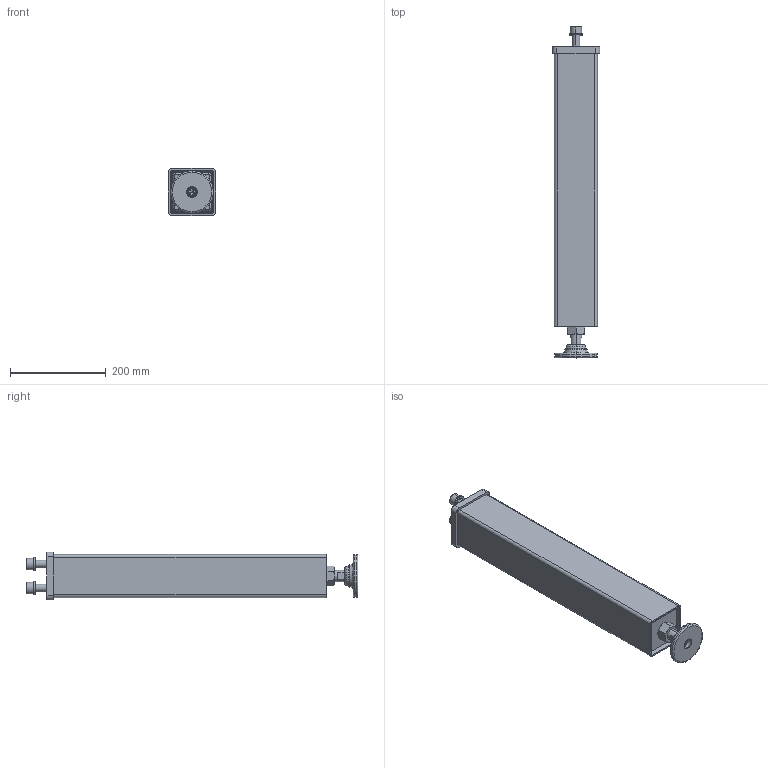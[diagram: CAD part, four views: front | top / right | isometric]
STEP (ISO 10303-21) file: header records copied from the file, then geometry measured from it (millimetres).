
FILE_DESCRIPTION (( 'STEP AP203' ), '1' );
FILE_NAME ('280858.STEP', '2020-07-07T07:33:47', ( '' ), ( '' ), 'SwSTEP 2.0', 'SolidWorks 2019', '' );
FILE_SCHEMA (( 'CONFIG_CONTROL_DESIGN' ));
Length unit declared in the file: millimetre
Products named in the file (12): ISO 8673 M24x1,5-verzinkt_0; Platte ^280858.X.T1_Schweißteil Fuß; M 24x1,5 Spindel 100^280855.X.1 Fußteller mit Spindel_ohne gew; Aufnahme^280858.X.T1_Schweißteil Fuß; ISO 4762 - M12 x 25 - verzinkt_0; 280855.X.1 Fußteller mit Spindel_Einfach; Fussteller^280855.X.1 Fußteller mit Spindel; Hohlprofil 90x90x3^280858.X.T1_Schweißteil Fuß_Standard<Wie bearbeitet>; Spring washer DIN 128 - A16_Spring washer DIN 128 - A16; ISO 4762 - M16 x 50 - verzinkt_0; 280858; 280858.X.T1_Schweißteil Fuß_Zusammen
Assembly tree (13 placements, depth 3):
  280858
    280858.X.T1_Schweißteil Fuß_Zusammen
      Hohlprofil 90x90x3^280858.X.T1_Schweißteil Fuß_Standard<Wie bearbeitet>
      Platte ^280858.X.T1_Schweißteil Fuß
      Aufnahme^280858.X.T1_Schweißteil Fuß
    280855.X.1 Fußteller mit Spindel_Einfach
      M 24x1,5 Spindel 100^280855.X.1 Fußteller mit Spindel_ohne gew
      Fussteller^280855.X.1 Fußteller mit Spindel
      ISO 4762 - M12 x 25 - verzinkt_0
    ISO 4762 - M16 x 50 - verzinkt_0  x2
    Spring washer DIN 128 - A16_Spring washer DIN 128 - A16  x2
    ISO 8673 M24x1,5-verzinkt_0
Bounding box: 100 x 693.8 x 100 mm (x, y, z)
Volume: 1050338.1 mm3; surface area: 482615.3 mm2
Topology: 11 solids, 11 shells, 214 faces, 481 edges, 291 vertices
Faces by surface type: plane 97, cylinder 46, cone 43, torus 28
Entity records: 6503 total; most frequent: CARTESIAN_POINT 1062, DIRECTION 945, ORIENTED_EDGE 802, EDGE_CURVE 401, AXIS2_PLACEMENT_3D 373, VERTEX_POINT 246, VECTOR 199, LINE 199
